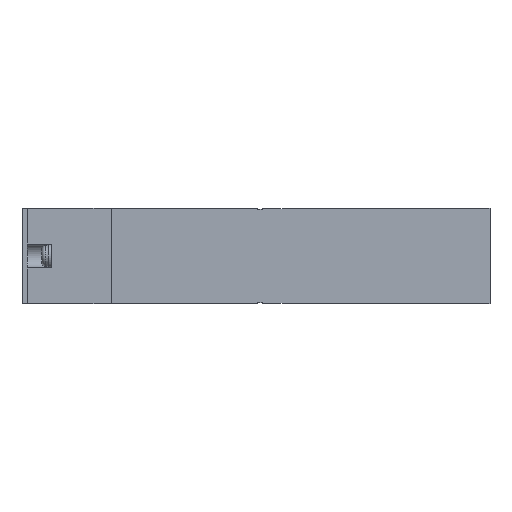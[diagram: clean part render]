
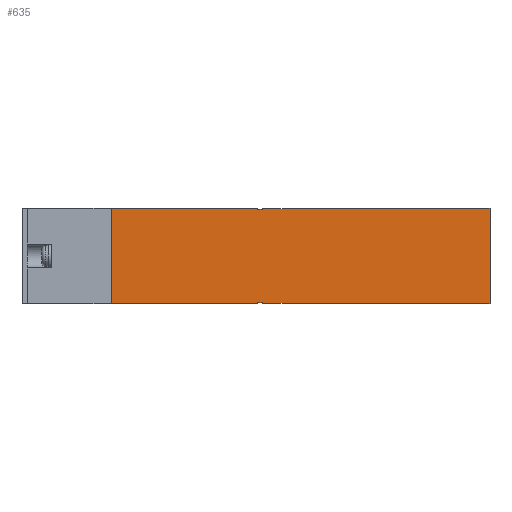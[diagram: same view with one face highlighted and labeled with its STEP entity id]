
A CAD part, front view. The second image highlights one B-rep face of the part: STEP entity #635.
In plain terms, the highlighted planar face has unit normal (0, -1, 0).
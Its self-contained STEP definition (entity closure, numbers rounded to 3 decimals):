
#635=ADVANCED_FACE('',(#1404),#1405,.F.);
#1404=FACE_OUTER_BOUND('',#2300,.T.);
#1405=PLANE('',#2301);
#2300=EDGE_LOOP('',(#5064,#5065,#5066,#5067,#5068,#5069,#5070,#5071,#5072,#5073,#5074,#5075,#5076,#5077,#5078,#5079,#5080,#5081,#5082,#5083,#5084,#5085,#5086,#5087));
#2301=AXIS2_PLACEMENT_3D('',#5088,#5089,#5090);
#5064=ORIENTED_EDGE('',*,*,#6724,.F.);
#5065=ORIENTED_EDGE('',*,*,#6755,.T.);
#5066=ORIENTED_EDGE('',*,*,#6756,.T.);
#5067=ORIENTED_EDGE('',*,*,#6727,.F.);
#5068=ORIENTED_EDGE('',*,*,#6757,.F.);
#5069=ORIENTED_EDGE('',*,*,#6758,.T.);
#5070=ORIENTED_EDGE('',*,*,#6759,.F.);
#5071=ORIENTED_EDGE('',*,*,#6760,.T.);
#5072=ORIENTED_EDGE('',*,*,#6761,.F.);
#5073=ORIENTED_EDGE('',*,*,#6703,.T.);
#5074=ORIENTED_EDGE('',*,*,#6716,.T.);
#5075=ORIENTED_EDGE('',*,*,#6668,.T.);
#5076=ORIENTED_EDGE('',*,*,#6762,.T.);
#5077=ORIENTED_EDGE('',*,*,#6763,.F.);
#5078=ORIENTED_EDGE('',*,*,#6764,.T.);
#5079=ORIENTED_EDGE('',*,*,#6731,.F.);
#5080=ORIENTED_EDGE('',*,*,#6765,.T.);
#5081=ORIENTED_EDGE('',*,*,#6766,.T.);
#5082=ORIENTED_EDGE('',*,*,#6676,.T.);
#5083=ORIENTED_EDGE('',*,*,#6767,.T.);
#5084=ORIENTED_EDGE('',*,*,#6768,.T.);
#5085=ORIENTED_EDGE('',*,*,#6769,.F.);
#5086=ORIENTED_EDGE('',*,*,#6750,.F.);
#5087=ORIENTED_EDGE('',*,*,#6770,.F.);
#5088=CARTESIAN_POINT('',(18.6,0.0,10.0));
#5089=DIRECTION('',(-0.0,1.0,0.0));
#5090=DIRECTION('',(1.0,0.0,0.0));
#6668=EDGE_CURVE('',#8267,#8265,#8268,.T.);
#6676=EDGE_CURVE('',#8282,#8283,#8284,.T.);
#6703=EDGE_CURVE('',#8333,#8331,#8334,.T.);
#6716=EDGE_CURVE('',#8331,#8267,#8356,.T.);
#6724=EDGE_CURVE('',#8366,#8368,#8369,.T.);
#6727=EDGE_CURVE('',#8372,#8373,#8374,.T.);
#6731=EDGE_CURVE('',#8379,#8381,#8382,.T.);
#6750=EDGE_CURVE('',#8412,#8414,#8415,.T.);
#6755=EDGE_CURVE('',#8366,#8422,#8423,.T.);
#6756=EDGE_CURVE('',#8422,#8373,#8424,.T.);
#6757=EDGE_CURVE('',#8425,#8372,#8426,.T.);
#6758=EDGE_CURVE('',#8425,#8427,#8428,.T.);
#6759=EDGE_CURVE('',#8429,#8427,#8430,.T.);
#6760=EDGE_CURVE('',#8429,#8431,#8432,.T.);
#6761=EDGE_CURVE('',#8333,#8431,#8433,.T.);
#6762=EDGE_CURVE('',#8265,#8434,#8435,.T.);
#6763=EDGE_CURVE('',#8436,#8434,#8437,.T.);
#6764=EDGE_CURVE('',#8436,#8381,#8438,.T.);
#6765=EDGE_CURVE('',#8379,#8439,#8440,.T.);
#6766=EDGE_CURVE('',#8439,#8282,#8441,.T.);
#6767=EDGE_CURVE('',#8283,#8442,#8443,.T.);
#6768=EDGE_CURVE('',#8442,#8444,#8445,.T.);
#6769=EDGE_CURVE('',#8414,#8444,#8446,.T.);
#6770=EDGE_CURVE('',#8368,#8412,#8447,.T.);
#8265=VERTEX_POINT('',#10831);
#8267=VERTEX_POINT('',#10834);
#8268=LINE('',#10835,#10836);
#8282=VERTEX_POINT('',#10857);
#8283=VERTEX_POINT('',#10858);
#8284=LINE('',#10859,#10860);
#8331=VERTEX_POINT('',#10930);
#8333=VERTEX_POINT('',#10933);
#8334=LINE('',#10934,#10935);
#8356=LINE('',#10969,#10970);
#8366=VERTEX_POINT('',#10986);
#8368=VERTEX_POINT('',#10989);
#8369=LINE('',#10990,#10991);
#8372=VERTEX_POINT('',#10996);
#8373=VERTEX_POINT('',#10997);
#8374=LINE('',#10998,#10999);
#8379=VERTEX_POINT('',#11006);
#8381=VERTEX_POINT('',#11009);
#8382=LINE('',#11010,#11011);
#8412=VERTEX_POINT('',#11055);
#8414=VERTEX_POINT('',#11058);
#8415=LINE('',#11059,#11060);
#8422=VERTEX_POINT('',#11071);
#8423=LINE('',#11072,#11073);
#8424=LINE('',#11074,#11075);
#8425=VERTEX_POINT('',#11076);
#8426=LINE('',#11077,#11078);
#8427=VERTEX_POINT('',#11079);
#8428=LINE('',#11080,#11081);
#8429=VERTEX_POINT('',#11082);
#8430=LINE('',#11083,#11084);
#8431=VERTEX_POINT('',#11085);
#8432=LINE('',#11086,#11087);
#8433=LINE('',#11088,#11089);
#8434=VERTEX_POINT('',#11090);
#8435=LINE('',#11091,#11092);
#8436=VERTEX_POINT('',#11093);
#8437=LINE('',#11094,#11095);
#8438=LINE('',#11096,#11097);
#8439=VERTEX_POINT('',#11098);
#8440=LINE('',#11099,#11100);
#8441=LINE('',#11101,#11102);
#8442=VERTEX_POINT('',#11103);
#8443=LINE('',#11104,#11105);
#8444=VERTEX_POINT('',#11106);
#8445=LINE('',#11107,#11108);
#8446=LINE('',#11109,#11110);
#8447=LINE('',#11111,#11112);
#10831=CARTESIAN_POINT('',(35.1,0.0,-10.0));
#10834=CARTESIAN_POINT('',(35.1,0.0,-9.9));
#10835=CARTESIAN_POINT('',(35.1,0.0,-9.9));
#10836=VECTOR('',#12535,1.0);
#10857=CARTESIAN_POINT('',(50.1,0.0,-9.9));
#10858=CARTESIAN_POINT('',(55.1,0.0,-9.9));
#10859=CARTESIAN_POINT('',(44.1,0.0,-9.9));
#10860=VECTOR('',#12543,1.0);
#10930=CARTESIAN_POINT('',(18.6,0.0,-9.9));
#10933=CARTESIAN_POINT('',(18.6,0.0,9.9));
#10934=CARTESIAN_POINT('',(18.6,0.0,10.0));
#10935=VECTOR('',#12574,1.0);
#10969=CARTESIAN_POINT('',(18.6,0.0,-9.9));
#10970=VECTOR('',#12587,1.0);
#10986=CARTESIAN_POINT('',(50.1,0.0,9.9));
#10989=CARTESIAN_POINT('',(55.1,0.0,9.9));
#10990=CARTESIAN_POINT('',(44.1,0.0,9.9));
#10991=VECTOR('',#12595,1.0);
#10996=CARTESIAN_POINT('',(49.1,0.0,9.9));
#10997=CARTESIAN_POINT('',(49.1,0.0,9.8));
#10998=CARTESIAN_POINT('',(49.1,0.0,10.0));
#10999=VECTOR('',#12598,1.0);
#11006=CARTESIAN_POINT('',(49.1,0.0,-9.8));
#11009=CARTESIAN_POINT('',(49.1,0.0,-9.9));
#11010=CARTESIAN_POINT('',(49.1,0.0,10.0));
#11011=VECTOR('',#12602,1.0);
#11055=CARTESIAN_POINT('',(55.1,0.0,10.0));
#11058=CARTESIAN_POINT('',(97.6,0.0,10.0));
#11059=CARTESIAN_POINT('',(18.6,0.0,10.0));
#11060=VECTOR('',#12627,1.0);
#11071=CARTESIAN_POINT('',(50.1,0.0,9.8));
#11072=CARTESIAN_POINT('',(50.1,0.0,10.0));
#11073=VECTOR('',#12632,1.0);
#11074=CARTESIAN_POINT('',(18.6,0.0,9.8));
#11075=VECTOR('',#12633,1.0);
#11076=CARTESIAN_POINT('',(44.1,0.0,9.9));
#11077=CARTESIAN_POINT('',(44.1,0.0,9.9));
#11078=VECTOR('',#12634,1.0);
#11079=CARTESIAN_POINT('',(44.1,0.0,10.0));
#11080=CARTESIAN_POINT('',(44.1,0.0,9.9));
#11081=VECTOR('',#12635,1.0);
#11082=CARTESIAN_POINT('',(35.1,0.0,10.0));
#11083=CARTESIAN_POINT('',(18.6,0.0,10.0));
#11084=VECTOR('',#12636,1.0);
#11085=CARTESIAN_POINT('',(35.1,0.0,9.9));
#11086=CARTESIAN_POINT('',(35.1,0.0,10.1));
#11087=VECTOR('',#12637,1.0);
#11088=CARTESIAN_POINT('',(18.6,0.0,9.9));
#11089=VECTOR('',#12638,1.0);
#11090=CARTESIAN_POINT('',(44.1,0.0,-10.0));
#11091=CARTESIAN_POINT('',(18.6,0.0,-10.0));
#11092=VECTOR('',#12639,1.0);
#11093=CARTESIAN_POINT('',(44.1,0.0,-9.9));
#11094=CARTESIAN_POINT('',(44.1,0.0,-9.9));
#11095=VECTOR('',#12640,1.0);
#11096=CARTESIAN_POINT('',(44.1,0.0,-9.9));
#11097=VECTOR('',#12641,1.0);
#11098=CARTESIAN_POINT('',(50.1,0.0,-9.8));
#11099=CARTESIAN_POINT('',(18.6,0.0,-9.8));
#11100=VECTOR('',#12642,1.0);
#11101=CARTESIAN_POINT('',(50.1,0.0,10.0));
#11102=VECTOR('',#12643,1.0);
#11103=CARTESIAN_POINT('',(55.1,0.0,-10.0));
#11104=CARTESIAN_POINT('',(55.1,0.0,-9.9));
#11105=VECTOR('',#12644,1.0);
#11106=CARTESIAN_POINT('',(97.6,0.0,-10.0));
#11107=CARTESIAN_POINT('',(18.6,0.0,-10.0));
#11108=VECTOR('',#12645,1.0);
#11109=CARTESIAN_POINT('',(97.6,0.0,10.0));
#11110=VECTOR('',#12646,1.0);
#11111=CARTESIAN_POINT('',(55.1,0.0,9.9));
#11112=VECTOR('',#12647,1.0);
#12535=DIRECTION('',(0.0,0.0,-1.0));
#12543=DIRECTION('',(1.0,0.0,0.0));
#12574=DIRECTION('',(0.0,0.0,-1.0));
#12587=DIRECTION('',(1.0,0.0,0.0));
#12595=DIRECTION('',(1.0,0.0,0.0));
#12598=DIRECTION('',(0.0,0.0,-1.0));
#12602=DIRECTION('',(0.0,0.0,-1.0));
#12627=DIRECTION('',(1.0,0.0,0.0));
#12632=DIRECTION('',(0.0,0.0,-1.0));
#12633=DIRECTION('',(-1.0,0.0,0.0));
#12634=DIRECTION('',(1.0,0.0,0.0));
#12635=DIRECTION('',(0.0,0.0,1.0));
#12636=DIRECTION('',(1.0,0.0,0.0));
#12637=DIRECTION('',(0.0,0.0,-1.0));
#12638=DIRECTION('',(1.0,0.0,0.0));
#12639=DIRECTION('',(1.0,0.0,0.0));
#12640=DIRECTION('',(0.0,0.0,-1.0));
#12641=DIRECTION('',(1.0,0.0,0.0));
#12642=DIRECTION('',(1.0,0.0,0.0));
#12643=DIRECTION('',(0.0,0.0,-1.0));
#12644=DIRECTION('',(0.0,0.0,-1.0));
#12645=DIRECTION('',(1.0,0.0,0.0));
#12646=DIRECTION('',(0.0,0.0,-1.0));
#12647=DIRECTION('',(0.0,0.0,1.0));
